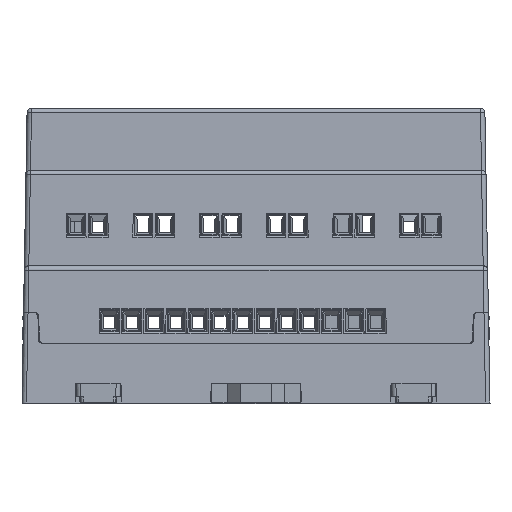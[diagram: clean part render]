
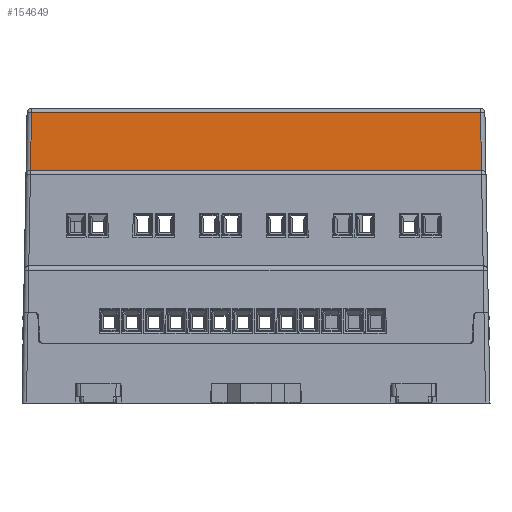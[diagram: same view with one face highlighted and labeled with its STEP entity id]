
A CAD part, top view. The second image highlights one B-rep face of the part: STEP entity #154649.
In plain terms, the highlighted planar face has unit normal (0, 0.018, 1).
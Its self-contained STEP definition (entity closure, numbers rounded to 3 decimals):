
#2068 = LINE ( 'NONE', #61806, #136622 ) ;
#3653 = DIRECTION ( 'NONE',  ( -0.017, -1., 0.017 ) ) ;
#6650 = CARTESIAN_POINT ( 'NONE',  ( 41.959, 47.16, 28.773 ) ) ;
#16518 = PLANE ( 'NONE',  #149070 ) ;
#17291 = DIRECTION ( 'NONE',  ( 0., -1., 0.017 ) ) ;
#25576 = VECTOR ( 'NONE', #3653, 1000. ) ;
#31061 = LINE ( 'NONE', #214008, #25576 ) ;
#34600 = ORIENTED_EDGE ( 'NONE', *, *, #178273, .T. ) ;
#39766 = EDGE_LOOP ( 'NONE', ( #76220, #34600, #91648, #87154 ) ) ;
#52532 = VERTEX_POINT ( 'NONE', #89704 ) ;
#55974 = DIRECTION ( 'NONE',  ( 1., 0., 0. ) ) ;
#61806 = CARTESIAN_POINT ( 'NONE',  ( 42.186, 34.143, 29. ) ) ;
#68968 = FACE_OUTER_BOUND ( 'NONE', #39766, .T. ) ;
#76220 = ORIENTED_EDGE ( 'NONE', *, *, #209127, .F. ) ;
#83036 = VECTOR ( 'NONE', #55974, 1000. ) ;
#86863 = CARTESIAN_POINT ( 'NONE',  ( -59.355, 34.143, 29. ) ) ;
#87154 = ORIENTED_EDGE ( 'NONE', *, *, #148935, .T. ) ;
#89704 = CARTESIAN_POINT ( 'NONE',  ( -59.128, 47.16, 28.773 ) ) ;
#91648 = ORIENTED_EDGE ( 'NONE', *, *, #225095, .T. ) ;
#92833 = VECTOR ( 'NONE', #148176, 1000. ) ;
#111611 = CARTESIAN_POINT ( 'NONE',  ( 42.186, 34.143, 29. ) ) ;
#115335 = VERTEX_POINT ( 'NONE', #6650 ) ;
#122503 = DIRECTION ( 'NONE',  ( 0., 0.017, 1. ) ) ;
#136622 = VECTOR ( 'NONE', #184468, 1000. ) ;
#139585 = LINE ( 'NONE', #165012, #92833 ) ;
#148176 = DIRECTION ( 'NONE',  ( 1., 0., 0. ) ) ;
#148935 = EDGE_CURVE ( 'NONE', #176723, #115335, #2068, .T. ) ;
#149070 = AXIS2_PLACEMENT_3D ( 'NONE', #227606, #122503, #17291 ) ;
#154649 = ADVANCED_FACE ( 'NONE', ( #68968 ), #16518, .T. ) ;
#161097 = CARTESIAN_POINT ( 'NONE',  ( 151.652, 34.143, 29. ) ) ;
#165012 = CARTESIAN_POINT ( 'NONE',  ( 151.652, 47.16, 28.773 ) ) ;
#176723 = VERTEX_POINT ( 'NONE', #111611 ) ;
#176977 = VERTEX_POINT ( 'NONE', #86863 ) ;
#178273 = EDGE_CURVE ( 'NONE', #52532, #176977, #31061, .T. ) ;
#184468 = DIRECTION ( 'NONE',  ( -0.017, 1., -0.017 ) ) ;
#209127 = EDGE_CURVE ( 'NONE', #52532, #115335, #139585, .T. ) ;
#214008 = CARTESIAN_POINT ( 'NONE',  ( -59.128, 47.16, 28.773 ) ) ;
#217673 = LINE ( 'NONE', #161097, #83036 ) ;
#225095 = EDGE_CURVE ( 'NONE', #176977, #176723, #217673, .T. ) ;
#227606 = CARTESIAN_POINT ( 'NONE',  ( 151.652, 34.143, 29. ) ) ;
